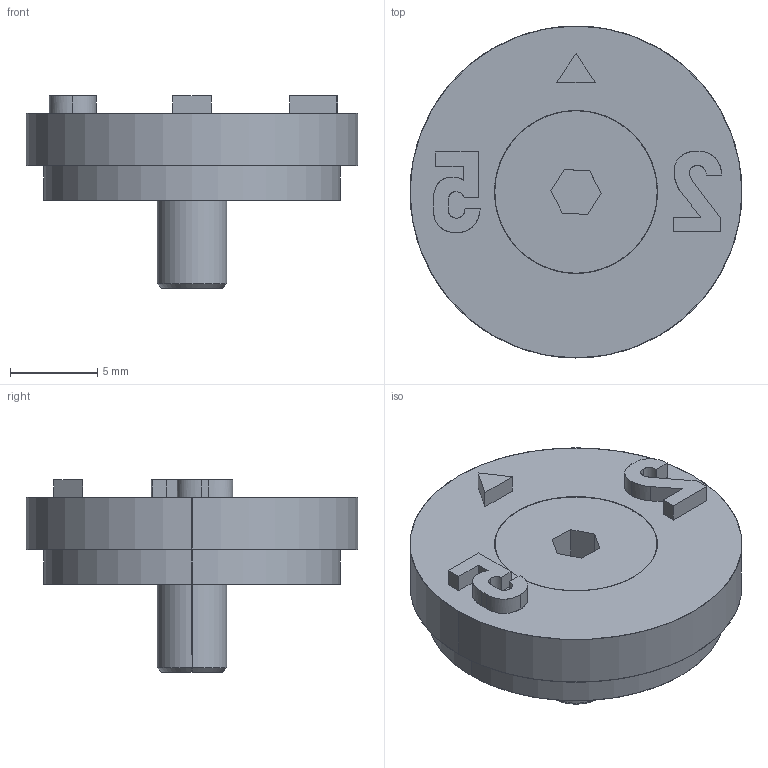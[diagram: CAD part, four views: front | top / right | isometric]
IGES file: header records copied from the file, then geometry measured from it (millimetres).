
Start section: SolidWorks IGES file using analytic representation for surfaces
Global section: file name: C:\Users\365admin\AppData\Local\Temp\InFlowConvert3DWorking\DLBRP30-25.igs; native system: SolidWorks 2019; preprocessor: SolidWorks 2019; author: 365admin; date: 220211.150356; units: millimetre
Bounding box: 19 x 19 x 11.01 mm (x, y, z)
Surface area: 1192.7 mm2 (no closed solid volume)
Topology: 0 solids, 0 shells, 68 faces, 794 edges, 794 vertices
Faces by surface type: bspline 54, revolution 14
